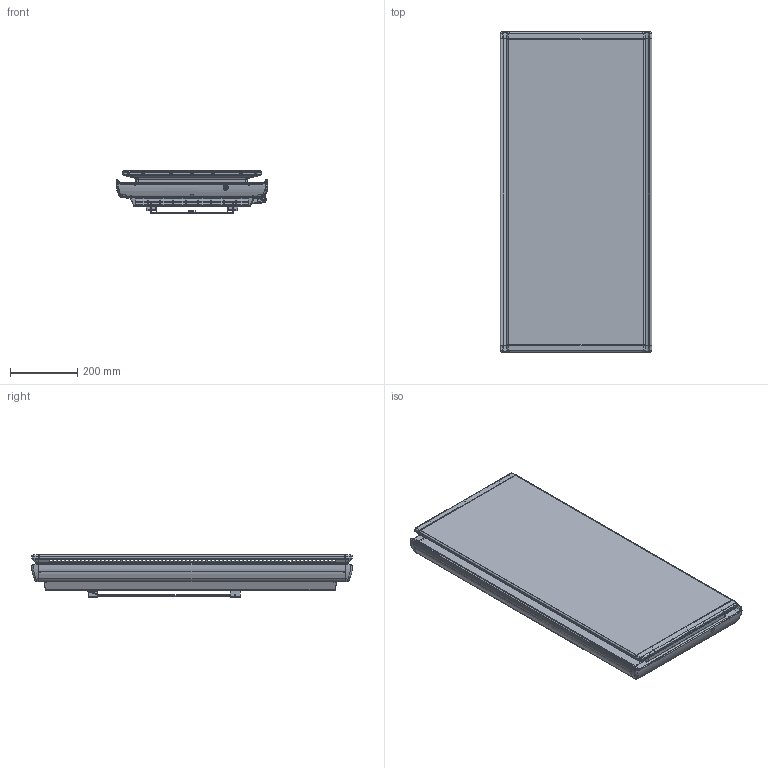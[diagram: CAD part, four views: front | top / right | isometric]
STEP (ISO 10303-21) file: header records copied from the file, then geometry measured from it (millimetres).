
FILE_DESCRIPTION(('FreeCAD Model'),'2;1');
FILE_NAME('Open CASCADE Shape Model','2026-06-08T14:17:12',(''),(''), 'Open CASCADE STEP processor 7.8','FreeCAD','Unknown');
FILE_SCHEMA(('AUTOMOTIVE_DESIGN { 1 0 10303 214 1 1 1 1 }'));
Length unit declared in the file: millimetre
Products named in the file (17): Icon_10; ICO_GR-SUPPORTO-MURALE_750-1000_ASM; ICO_SUPPORTO-MURALE-SUP; GLA_TRAVERSA-SUPPORTO; ICO_SUPPORTO-MURALE-INF; ICO_GR-POSTERIORE_0750W_ASM; ICO_POSTERIORE_0750W; DEK_AGGANCIO-SUPPORTO; DEK_AGGANCIO-SUPPORTO001; ICO_COPERTURA-LATERALE-COMANDI; ICO_ADESIVO; ICO_GR-ANTERIORE_0750W_ASM; ICO_ANTERIORE_0750W; ICO_ESTRUSO_0750W_DX-DISPLAY; ICO_ESTRUSO_0750W_SX; ICO_TAPPO; ICO_TAPPO001
Assembly tree (16 placements, depth 3):
  Icon_10
    ICO_GR-SUPPORTO-MURALE_750-1000_ASM
      ICO_SUPPORTO-MURALE-SUP
      GLA_TRAVERSA-SUPPORTO
      ICO_SUPPORTO-MURALE-INF
    ICO_GR-POSTERIORE_0750W_ASM
      ICO_POSTERIORE_0750W
      DEK_AGGANCIO-SUPPORTO
      DEK_AGGANCIO-SUPPORTO001
    ICO_COPERTURA-LATERALE-COMANDI
    ICO_ADESIVO
    ICO_GR-ANTERIORE_0750W_ASM
      ICO_ANTERIORE_0750W
      ICO_ESTRUSO_0750W_DX-DISPLAY
      ICO_ESTRUSO_0750W_SX
      ICO_TAPPO
      ICO_TAPPO001
Bounding box: 449.69 x 950.4 x 126.2 mm (x, y, z)
Volume: 1766663.3 mm3; surface area: 3083530 mm2
Topology: 13 solids, 13 shells, 3739 faces, 10309 edges, 6635 vertices
Faces by surface type: plane 2325, cylinder 891, bspline 312, cone 135, torus 46, sphere 30
Entity records: 137071 total; most frequent: CARTESIAN_POINT 44188, ORIENTED_EDGE 20578, DIRECTION 16930, EDGE_CURVE 10289, LINE 6690, VECTOR 6690, VERTEX_POINT 6635, AXIS2_PLACEMENT_3D 5120
